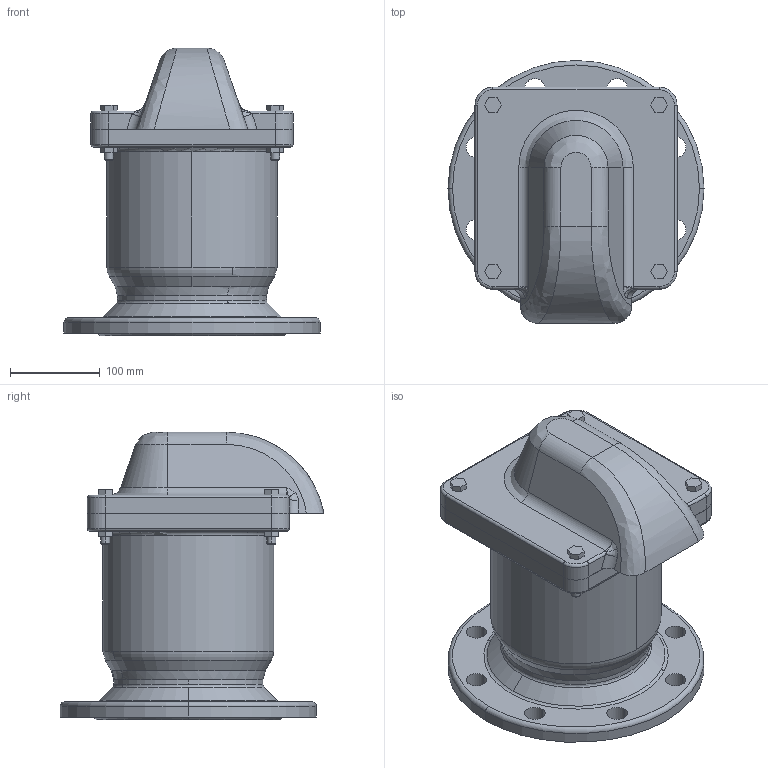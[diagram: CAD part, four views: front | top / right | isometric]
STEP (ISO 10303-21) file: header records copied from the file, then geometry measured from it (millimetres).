
FILE_DESCRIPTION (( 'STEP AP203' ), '1' );
FILE_NAME ('0.STEP', '2017-05-28T02:09:05', ( 'User' ), ( 'shendu' ), 'SwSTEP 2.0', 'SolidWorks 2015', '' );
FILE_SCHEMA (( 'CONFIG_CONTROL_DESIGN' ));
Length unit declared in the file: millimetre
Products named in the file (1): 0
Bounding box: 285 x 293.17 x 320 mm (x, y, z)
Volume: 6776329.6 mm3; surface area: 1018794.6 mm2
Topology: 11 solids, 11 shells, 328 faces, 807 edges, 505 vertices
Faces by surface type: plane 119, cylinder 113, bspline 62, cone 18, torus 16
Entity records: 19370 total; most frequent: CARTESIAN_POINT 11832, ORIENTED_EDGE 1582, DIRECTION 1462, EDGE_CURVE 791, AXIS2_PLACEMENT_3D 536, VERTEX_POINT 505, VECTOR 390, LINE 390
